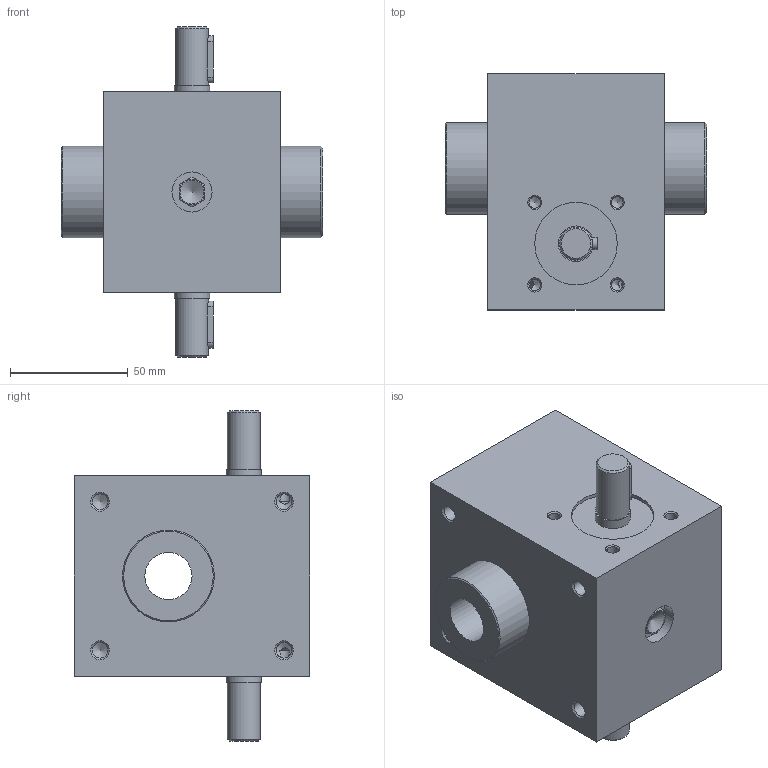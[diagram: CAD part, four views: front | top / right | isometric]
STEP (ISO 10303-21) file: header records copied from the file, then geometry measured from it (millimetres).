
FILE_DESCRIPTION(/* description */ (''),/* implementation_level */ '2;1');
FILE_NAME(/* name */ 'D:\FOLDER Tomasz Michałek\pliki z pulpitu\Katalogi przekładni\Podnośniki śrubowe\Pivexin Technology\Podnosniki - potrzebne\Modele podnosnikow\N\SG10\M2-N-161\SG10-N-L.stp',/* time_stamp */ '2016-05-17T22:24:28+02:00',/* author */ ('Tomasz'),/* organization */ (''),/* preprocessor_version */ 'ST-DEVELOPER v16.1',/* originating_system */ 'Autodesk Inventor 2016',/* authorisation */ '');
FILE_SCHEMA (('AUTOMOTIVE_DESIGN { 1 0 10303 214 3 1 1 }'));
Length unit declared in the file: millimetre
Products named in the file (3): SG10_obudowa; SG10_slimak; SG10-N-H
Assembly tree (2 placements, depth 2):
  SG10-N-H
    SG10_obudowa
    SG10_slimak
Bounding box: 111 x 100 x 140 mm (x, y, z)
Volume: 644042.7 mm3; surface area: 70784.4 mm2
Topology: 2 solids, 2 shells, 101 faces, 247 edges, 154 vertices
Faces by surface type: cone 43, cylinder 30, plane 28
Full cylindrical faces by diameter (mm): 4.917 x8, 6.647 x8, 14 x2, 15 x2, 17 x1, 20 x1, 35 x2, 38.7 x1, 39 x1
Entity records: 2628 total; most frequent: CARTESIAN_POINT 628, DIRECTION 418, ORIENTED_EDGE 310, AXIS2_PLACEMENT_3D 189, EDGE_LOOP 178, EDGE_CURVE 155, VERTEX_POINT 123, FACE_OUTER_BOUND 101
